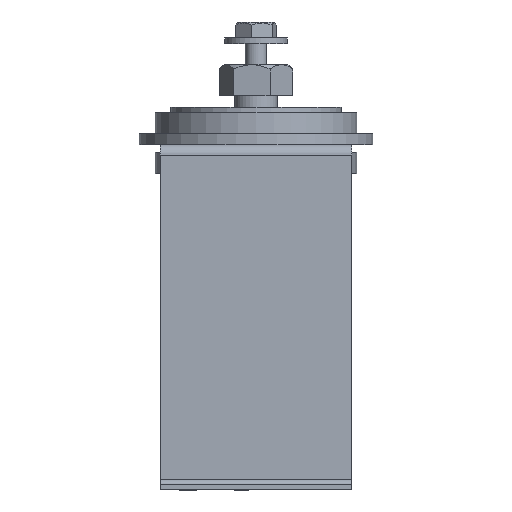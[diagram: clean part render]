
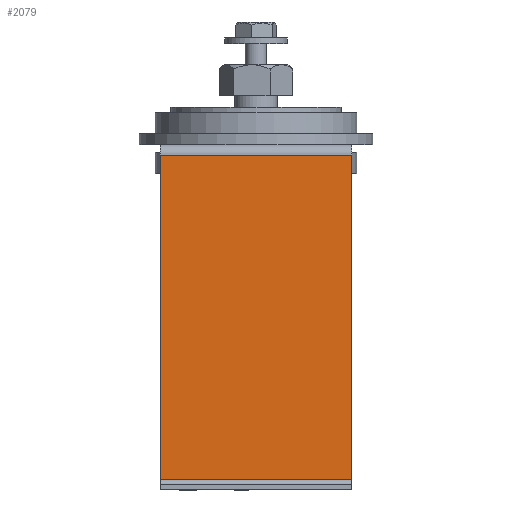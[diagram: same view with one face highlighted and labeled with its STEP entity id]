
A CAD part, front view. The second image highlights one B-rep face of the part: STEP entity #2079.
In plain terms, the highlighted planar face has unit normal (0, -1, 0) as drawn and (-1, 0, 0) by its records, which use the part's own axes.
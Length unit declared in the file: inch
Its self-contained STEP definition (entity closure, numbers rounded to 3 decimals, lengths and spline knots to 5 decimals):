
#212=PLANE($,#2279);
#321=LINE($,#3323,#437);
#324=LINE($,#3329,#440);
#327=LINE($,#3336,#443);
#328=LINE($,#3340,#444);
#437=VECTOR($,#2650,2.25);
#440=VECTOR($,#2655,3.8125);
#443=VECTOR($,#2662,2.25);
#444=VECTOR($,#2669,3.8125);
#630=FACE_OUTER_BOUND($,#769,.T.);
#769=EDGE_LOOP($,(#1631,#1632,#1633,#1634));
#1081=VERTEX_POINT($,#3308);
#1082=VERTEX_POINT($,#3312);
#1085=VERTEX_POINT($,#3327);
#1087=VERTEX_POINT($,#3335);
#1289=EDGE_CURVE($,#1081,#1082,#321,.T.);
#1292=EDGE_CURVE($,#1085,#1082,#324,.T.);
#1295=EDGE_CURVE($,#1085,#1087,#327,.T.);
#1298=EDGE_CURVE($,#1081,#1087,#328,.T.);
#1631=ORIENTED_EDGE($,*,*,#1289,.T.);
#1632=ORIENTED_EDGE($,*,*,#1292,.F.);
#1633=ORIENTED_EDGE($,*,*,#1295,.T.);
#1634=ORIENTED_EDGE($,*,*,#1298,.F.);
#2079=ADVANCED_FACE($,(#630),#212,.F.);
#2279=AXIS2_PLACEMENT_3D($,#3348,#2680,#2681);
#2650=DIRECTION($,(0.,1.,0.));
#2655=DIRECTION($,(0.,0.,1.));
#2662=DIRECTION($,(0.,-1.,0.));
#2669=DIRECTION($,(0.,0.,-1.));
#2680=DIRECTION('center_axis',(1.,0.,0.));
#2681=DIRECTION('ref_axis',(0.,0.,-1.));
#3308=CARTESIAN_POINT('',(-1.3125,-1.125,3.9375));
#3312=CARTESIAN_POINT('',(-1.3125,1.125,3.9375));
#3323=CARTESIAN_POINT($,(-1.3125,0.5625,3.9375));
#3327=CARTESIAN_POINT('',(-1.3125,1.125,0.125));
#3329=CARTESIAN_POINT($,(-1.3125,1.125,0.125));
#3335=CARTESIAN_POINT('',(-1.3125,-1.125,0.125));
#3336=CARTESIAN_POINT($,(-1.3125,0.,0.125));
#3340=CARTESIAN_POINT($,(-1.3125,-1.125,-0.15774));
#3348=CARTESIAN_POINT('Origin',(-1.3125,0.,1.99181));
